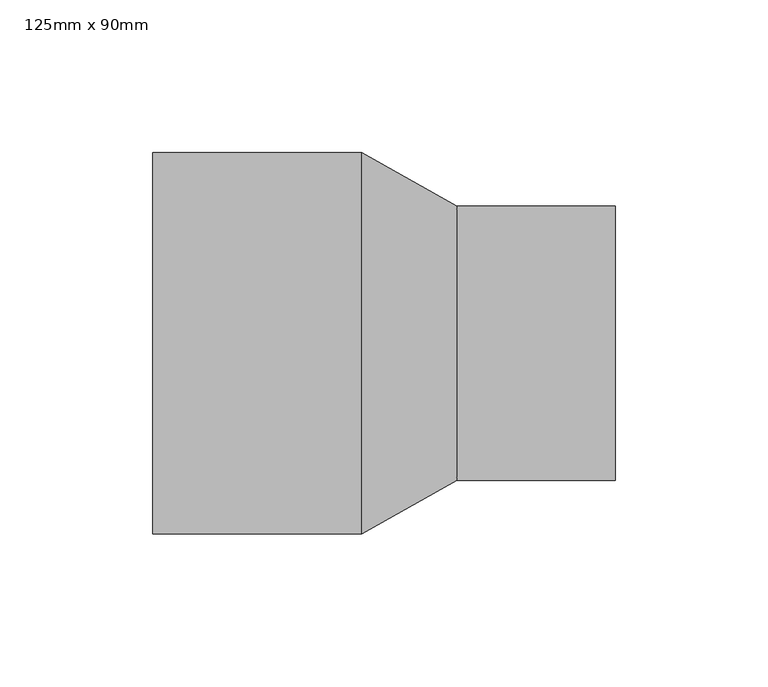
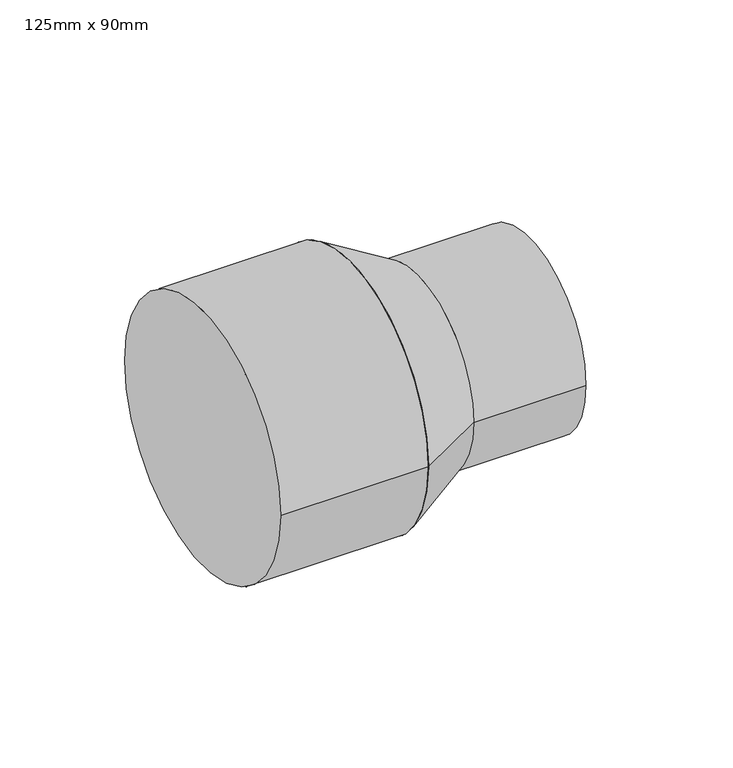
"""IFC4 building model written with IfcOpenShell, lengths in millimetres: pipe fitting geometry, PipeFitting_HTA_CPVC_ReducingBushesLongPattern : 125mm x 90mm."""

from ifc_helpers import new_model, si_unit, point, frame, origin, origin_2d, place, context, project, spatial, polyline, circle_curve, trimmed, segment, composite_curve, outline, extrude, source, transform, mapped, element, save
from ifc_brep_helpers import plane_surface, revolved_surface, advanced_brep


def pipe_fitting_125mm_x_90mm_875e145c(model_context):
    return source(origin(), model_context, "Body", "SolidModel", [
        advanced_brep(
        [(99.5, -45.0, 0.0), (99.5, 45.0, 0.0), (68.5, -62.5, 0.0), (68.5, 62.5, 0.0)],
        [
            (0, 1, circle_curve(frame((99.5, 0.0, 0.0), z_axis=(1.0, 0.0, 0.0), x_axis=(0.0, -1.0, 0.0)), 45.0)),
            (1, 0, circle_curve(frame((99.5, 0.0, 0.0), z_axis=(1.0, 0.0, 0.0), x_axis=(0.0, 1.0, 0.0)), 45.0)),
            (2, 3, circle_curve(frame((68.5, 0.0, 0.0), z_axis=(-1.0, 0.0, 0.0), x_axis=(0.0, 1.0, 0.0)), 62.5)),
            (3, 2, circle_curve(frame((68.5, 0.0, 0.0), z_axis=(-1.0, 0.0, 0.0), x_axis=(0.0, -1.0, 0.0)), 62.5)),
            (3, 1),
            (0, 2),
        ],
        [
            plane_surface(frame((99.5, 0.0, 0.0), z_axis=(1.0, 0.0, 0.0), x_axis=(0.0, 0.0, -1.0))),
            plane_surface(frame((68.5, 0.0, 0.0), z_axis=(-1.0, 0.0, 0.0), x_axis=(0.0, 0.0, -1.0))),
            revolved_surface(polyline([(99.5, -44.99999999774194, 0.0), (68.5, -62.5, 0.0)]), (179.2142857, 0.0, 0.0), (-1.0, 0.0, 0.0)),
            revolved_surface(polyline([(99.5, 44.99999999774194, 0.0), (68.5, 62.5, 0.0)]), (179.2142857, 0.0, 0.0), (-1.0, 0.0, 0.0)),
        ],
        [
            (0, [[1, 2]]),
            (1, [[3, 4]]),
            (2, [[-4, 5, -1, 6]]),
            (3, [[-3, -6, -2, -5]]),
        ],
    ),
        extrude(outline(composite_curve([segment(trimmed(circle_curve(origin_2d(), 45.0), [point((-45.0, 0.0))], [point((45.0, 0.0))], False, "CARTESIAN"), True, "CONTINUOUS"), segment(trimmed(circle_curve(origin_2d(), 45.0), [point((45.0, 0.0))], [point((-45.0, 0.0))], False, "CARTESIAN"), True, "CONTINUOUS")], self_intersect=False)), frame((99.5, 0.0, 0.0), z_axis=(1.0, 0.0, 0.0), x_axis=(0.0, 1.0, 0.0)), (0.0, 0.0, 1.0), 52.0),
        extrude(outline(composite_curve([segment(trimmed(circle_curve(origin_2d(), 62.5), [point((-62.5, 0.0))], [point((62.5, 0.0))], False, "CARTESIAN"), True, "CONTINUOUS"), segment(trimmed(circle_curve(origin_2d(), 62.5), [point((62.5, 0.0))], [point((-62.5, 0.0))], False, "CARTESIAN"), True, "CONTINUOUS")], self_intersect=False)), frame((0.0, 0.0, 0.0), z_axis=(1.0, 0.0, 0.0), x_axis=(0.0, 1.0, 0.0)), (0.0, 0.0, 1.0), 68.5),
    ])


if __name__ == "__main__":
    model = new_model("IFC4")
    model_context = context("Model", 3, world=origin())
    ifc_project = project(units=[si_unit("LENGTHUNIT", "METRE", prefix="MILLI")], contexts=[model_context])
    site = spatial("IfcSite", under=ifc_project)
    building = spatial("IfcBuilding", under=site)
    placement = place(None, origin())
    pipe_fitting_125mm_x_90mm_shape = pipe_fitting_125mm_x_90mm_875e145c(model_context)
    element("IfcPipeFitting", 1, ObjectType="PipeFitting_HTA_CPVC_ReducingBushesLongPattern : 125mm x 90mm", at=placement, inside=building, context=model_context, shape_type="MappedRepresentation", body=[
        mapped(pipe_fitting_125mm_x_90mm_shape, transform((0.0, 0.0, 0.0), x_axis=(1.0, 0.0, 0.0), y_axis=(0.0, 1.0, 0.0), z_axis=(0.0, 0.0, 1.0))),
    ])
    save(model, "model.ifc")
